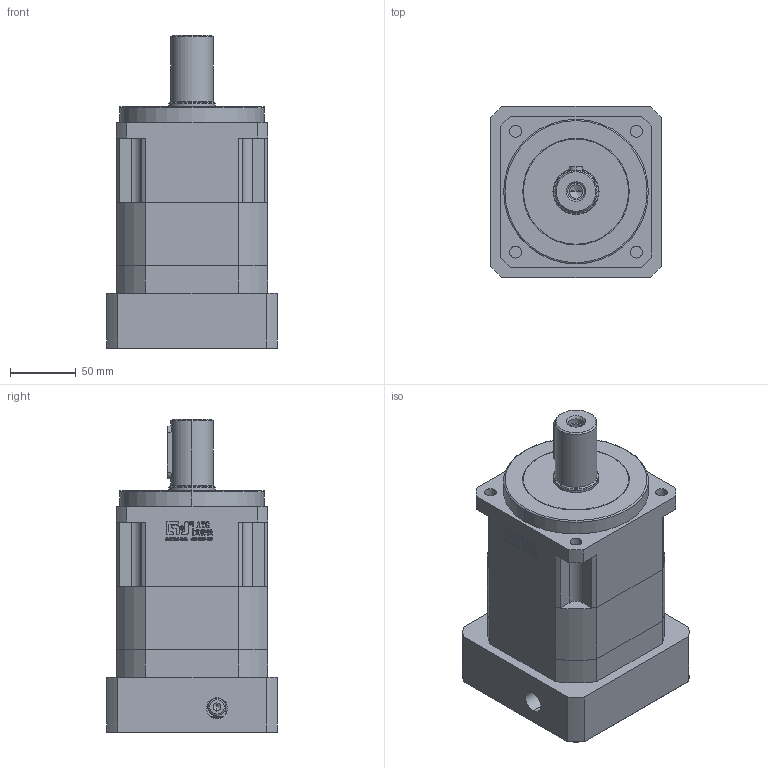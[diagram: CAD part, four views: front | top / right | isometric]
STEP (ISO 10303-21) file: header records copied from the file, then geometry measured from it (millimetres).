
FILE_DESCRIPTION (( 'STEP AP214' ), '1' );
FILE_NAME ('PGH115-L2-[ ]-P2 22-110-145-M8 bzsc32.STEP', '2024-05-29T07:14:57', ( '' ), ( '' ), 'SwSTEP 2.0', 'SolidWorks 2021', '' );
FILE_SCHEMA (( 'AUTOMOTIVE_DESIGN' ));
Length unit declared in the file: millimetre
Products named in the file (1): PGH115-L2-[ ]-P2 22-110-145-M8 bzsc32
Bounding box: 130 x 130 x 238 mm (x, y, z)
Volume: 1744511 mm3; surface area: 242217.9 mm2
Topology: 10 solids, 10 shells, 1316 faces, 3444 edges, 2247 vertices
Faces by surface type: plane 700, bspline 305, cylinder 208, cone 85, torus 18
Entity records: 55305 total; most frequent: CARTESIAN_POINT 23880, ORIENTED_EDGE 6856, DIRECTION 5374, EDGE_CURVE 3428, VERTEX_POINT 2247, LINE 2204, VECTOR 2204, AXIS2_PLACEMENT_3D 1585
